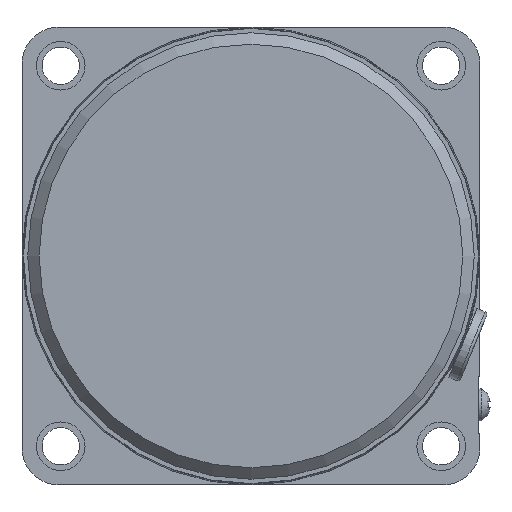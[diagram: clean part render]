
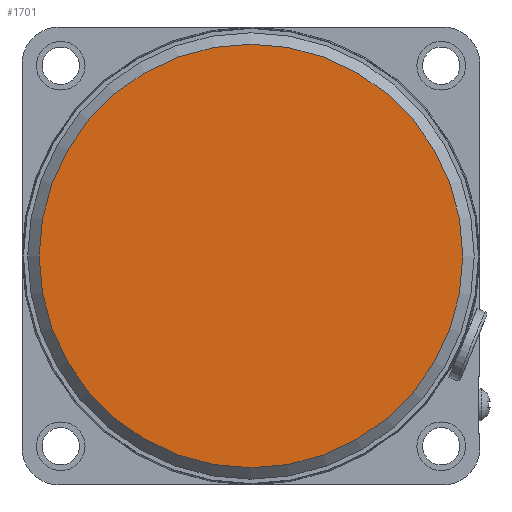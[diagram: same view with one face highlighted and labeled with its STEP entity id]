
A CAD part, left-side view. The second image highlights one B-rep face of the part: STEP entity #1701.
In plain terms, the highlighted planar face has unit normal (-1, 0, 0).
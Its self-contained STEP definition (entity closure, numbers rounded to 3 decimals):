
#130=FACE_OUTER_BOUND('',#235,.T.);
#235=EDGE_LOOP('',(#1159));
#626=CIRCLE('',#1826,37.);
#721=VERTEX_POINT('',#2615);
#896=EDGE_CURVE('',#721,#721,#626,.T.);
#1159=ORIENTED_EDGE('',*,*,#896,.F.);
#1530=PLANE('',#1825);
#1701=ADVANCED_FACE('',(#130),#1530,.T.);
#1825=AXIS2_PLACEMENT_3D('',#2614,#2069,#2070);
#1826=AXIS2_PLACEMENT_3D('',#2616,#2071,#2072);
#2069=DIRECTION('center_axis',(-1.,0.,0.));
#2070=DIRECTION('ref_axis',(0.,0.,1.));
#2071=DIRECTION('center_axis',(1.,0.,0.));
#2072=DIRECTION('ref_axis',(0.,1.,0.));
#2614=CARTESIAN_POINT('Origin',(0.,18.5,0.));
#2615=CARTESIAN_POINT('',(0.,37.,0.));
#2616=CARTESIAN_POINT('Origin',(0.,0.,
0.));
